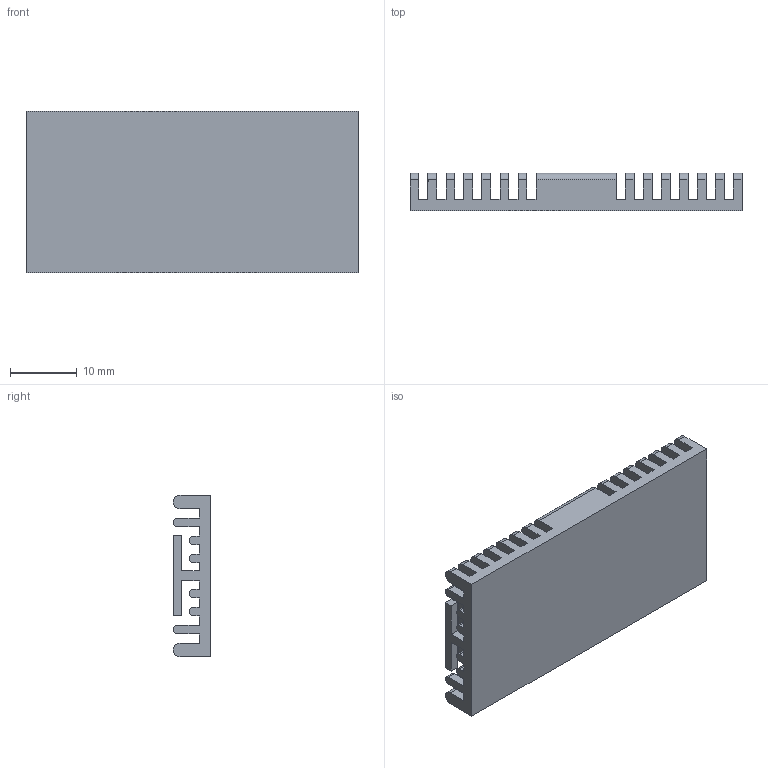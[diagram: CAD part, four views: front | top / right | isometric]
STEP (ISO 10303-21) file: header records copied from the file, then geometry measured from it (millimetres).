
FILE_DESCRIPTION (( 'STEP AP214' ), '1' );
FILE_NAME ('TEN-HS1.STEP', '2018-11-05T02:32:12', ( 'user' ), ( '' ), 'SwSTEP 2.0', 'SolidWorks 2016', '' );
FILE_SCHEMA (( 'AUTOMOTIVE_DESIGN' ));
Length unit declared in the file: millimetre
Products named in the file (1): TEN-HS1
Bounding box: 49.8 x 5.6 x 24.2 mm (x, y, z)
Volume: 3560.1 mm3; surface area: 6184.7 mm2
Topology: 1 solids, 1 shells, 693 faces, 1800 edges, 1200 vertices
Faces by surface type: plane 573, cylinder 120
Entity records: 28631 total; most frequent: CARTESIAN_POINT 3694, ORIENTED_EDGE 3600, DIRECTION 3428, EDGE_CURVE 1800, LINE 1560, VECTOR 1560, VERTEX_POINT 1200, AXIS2_PLACEMENT_3D 934
